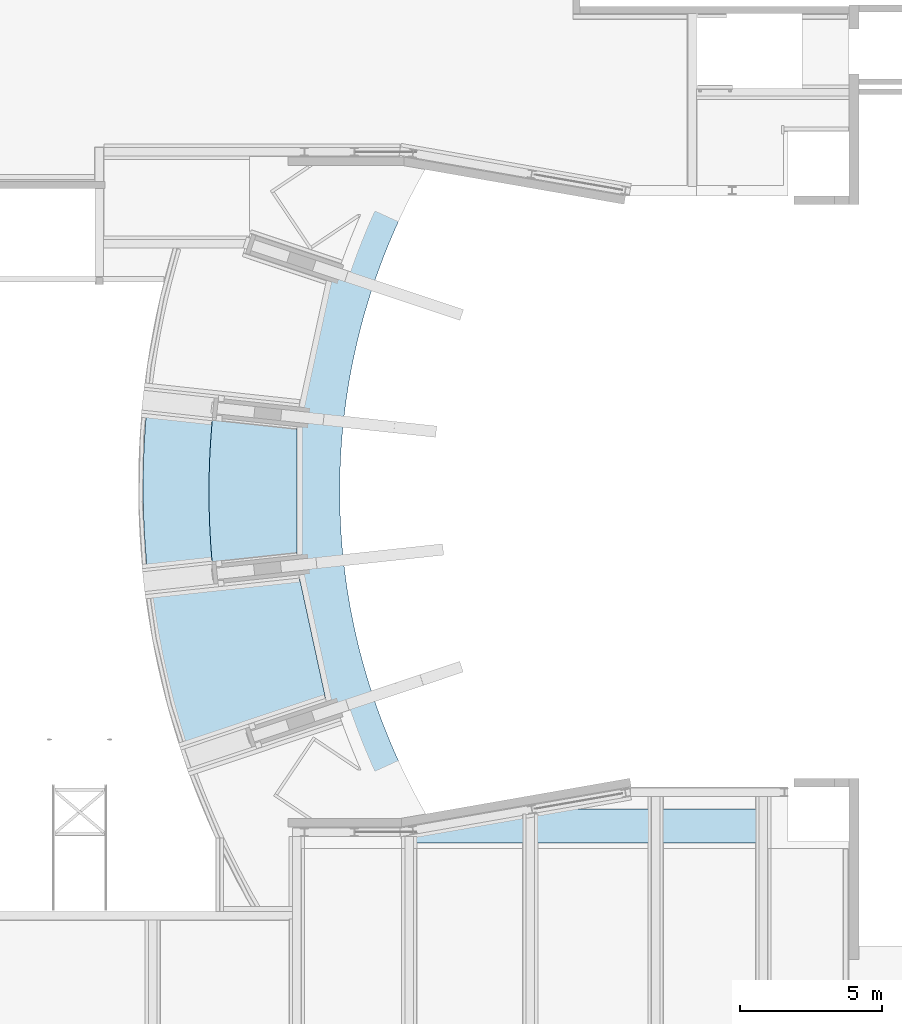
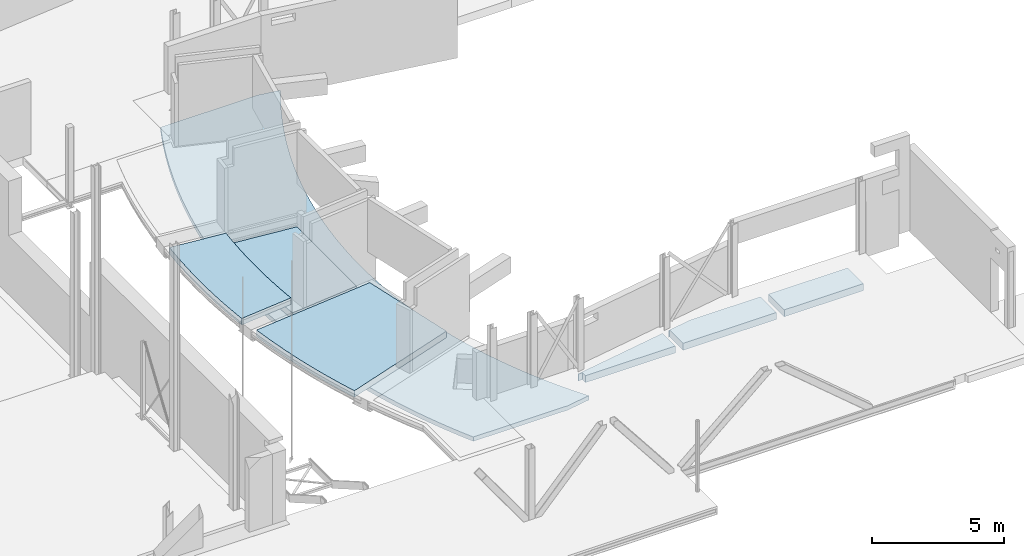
# One storey, part 24 of 37: 5 slabs, 21 openings.
"""IFC2X3 building model written with IfcOpenShell, lengths in millimetres."""

from ifc_helpers import new_model, entity, si_unit, converted_unit, derived_unit, direction, frame, frame_2d, origin, origin_2d_with_axis, place, context, subcontext, project, spatial, polyline, circle_curve, parameter, trimmed, segment, composite_curve, rectangle, outline, extrude, faceted_brep, material, layer, layer_set, layer_usage, type_object, element, save


model = new_model("IFC2X3")

# Units and contexts
model_context = context("Model", 3, precision=0.01, world=origin(), true_north=direction((6.12303176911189e-17, 1.0)))
body_context = subcontext(model_context, "Body", "Model", "MODEL_VIEW")
ifc_project = project(units=[si_unit("LENGTHUNIT", "METRE", prefix="MILLI"), si_unit("AREAUNIT", "SQUARE_METRE", prefix="MILLI"), si_unit("VOLUMEUNIT", "CUBIC_METRE"), converted_unit("PLANEANGLEUNIT", "DEGREE", entity("IfcRatioMeasure", 0.0174532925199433), si_unit("PLANEANGLEUNIT", "RADIAN"), dimensions=[0, 0, 0, 0, 0, 0, 0]), si_unit("MASSUNIT", "GRAM", prefix="KILO"), derived_unit("MASSDENSITYUNIT", [(si_unit("MASSUNIT", "GRAM", prefix="KILO"), 1), (si_unit("LENGTHUNIT", "METRE"), -3)]), derived_unit("MOMENTOFINERTIAUNIT", [(si_unit("LENGTHUNIT", "METRE"), 4)]), si_unit("TIMEUNIT", "SECOND"), si_unit("FREQUENCYUNIT", "HERTZ"), si_unit("THERMODYNAMICTEMPERATUREUNIT", "DEGREE_CELSIUS"), derived_unit("THERMALTRANSMITTANCEUNIT", [(si_unit("MASSUNIT", "GRAM", prefix="KILO"), 1), (si_unit("THERMODYNAMICTEMPERATUREUNIT", "KELVIN"), -1), (si_unit("TIMEUNIT", "SECOND"), -3)]), derived_unit("VOLUMETRICFLOWRATEUNIT", [(si_unit("LENGTHUNIT", "METRE"), 3), (si_unit("TIMEUNIT", "SECOND"), -1)]), si_unit("ELECTRICCURRENTUNIT", "AMPERE"), si_unit("ELECTRICVOLTAGEUNIT", "VOLT"), si_unit("POWERUNIT", "WATT"), si_unit("FORCEUNIT", "NEWTON", prefix="KILO"), si_unit("ILLUMINANCEUNIT", "LUX"), si_unit("LUMINOUSFLUXUNIT", "LUMEN"), si_unit("LUMINOUSINTENSITYUNIT", "CANDELA"), derived_unit("USERDEFINED", [(si_unit("MASSUNIT", "GRAM", prefix="KILO"), -1), (si_unit("LENGTHUNIT", "METRE"), -2), (si_unit("TIMEUNIT", "SECOND"), 3), (si_unit("LUMINOUSFLUXUNIT", "LUMEN"), 1)]), derived_unit("LINEARVELOCITYUNIT", [(si_unit("LENGTHUNIT", "METRE"), 1), (si_unit("TIMEUNIT", "SECOND"), -1)]), si_unit("PRESSUREUNIT", "PASCAL"), derived_unit("USERDEFINED", [(si_unit("LENGTHUNIT", "METRE"), -2), (si_unit("MASSUNIT", "GRAM", prefix="KILO"), 1), (si_unit("TIMEUNIT", "SECOND"), -2)]), derived_unit("LINEARFORCEUNIT", [(si_unit("MASSUNIT", "GRAM", prefix="KILO"), 1), (si_unit("LENGTHUNIT", "METRE"), 1), (si_unit("TIMEUNIT", "SECOND"), -2), (si_unit("LENGTHUNIT", "METRE"), -1)]), derived_unit("PLANARFORCEUNIT", [(si_unit("MASSUNIT", "GRAM", prefix="KILO"), 1), (si_unit("LENGTHUNIT", "METRE"), 1), (si_unit("TIMEUNIT", "SECOND"), -2), (si_unit("LENGTHUNIT", "METRE"), -2)])], contexts=[model_context])

# Site, building, storey
site_placement = place(None, origin())
site = spatial("IfcSite", under=ifc_project, at=site_placement, Name="Theater aan de Parade", CompositionType="ELEMENT")
building_placement = place(site_placement, origin())
building = spatial("IfcBuilding", under=site, at=building_placement, Name="Theater aan de Parade", CompositionType="ELEMENT")
storey_placement = place(building_placement, frame((0.0, 0.0, 5020.0)))
storey = spatial("IfcBuildingStorey", under=building, at=storey_placement, Name="01 eerste verdieping", CompositionType="ELEMENT", Elevation=5020.0)

# Slab
ifc_material_1 = material(Name="00_PBT_MAT_beton t.p.g.")
ifc_layer_1 = layer(ifc_material_1, 200.0)
ifc_layer_set_1 = layer_set([ifc_layer_1], Name="Floor:28_PBT_FL_beton t.p.g._d=200_bestaand")
ifc_layer_usage_1 = layer_usage(ifc_layer_set_1, "AXIS3", "POSITIVE", 0.0)
slab_type_1 = type_object("IfcSlabType", Name="Floor:28_PBT_FL_beton t.p.g._d=200_bestaand", PredefinedType="FLOOR", material=ifc_layer_set_1)
slab_1_placement = place(storey_placement, origin())
element("IfcSlab", 1, at=slab_1_placement, inside=storey, type_object=slab_type_1, material=ifc_layer_usage_1, Name="Floor:28_PBT_FL_beton t.p.g._d=200_bestaand", ObjectType="Floor:28_PBT_FL_beton t.p.g._d=200_bestaand", PredefinedType="FLOOR", context=body_context, shape_type="SweptSolid", body=[
    extrude(outline(composite_curve([segment(polyline([(-1033.59943588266, -11793.2034967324), (3095.4069332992, -11793.2034967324)]), True, "CONTINUOUS"), segment(trimmed(circle_curve(frame_2d((-21683.2616783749, 26.7965032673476), x_axis=(0.902568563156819, -0.430546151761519)), 27453.5028396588), [parameter(0.0)], [parameter(50.8657923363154)], True, "PARAMETER"), True, "CONTINUOUS"), segment(polyline([(3123.93925536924, 11786.7965032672), (-1119.31372159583, 11786.7965032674)]), True, "CONTINUOUS"), segment(polyline([(-1119.31372159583, 11786.7965032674), (-2021.15657160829, 11628.9740045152)]), True, "CONTINUOUS"), segment(trimmed(circle_curve(frame_2d((-21683.2616783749, 26.7965032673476), x_axis=(0.861239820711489, 0.508198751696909)), 22830.0), [parameter(298.793248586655)], [parameter(0.0)], True, "PARAMETER"), False, "CONTINUOUS"), segment(polyline([(-2045.27645958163, -11616.1600175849), (-1033.59943588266, -11793.2034967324)]), True, "CONTINUOUS")], self_intersect=False)), frame((50576.7383216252, 32423.2034967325, -1710.0), z_axis=(0.0, 0.0, -1.0), x_axis=(-1.0, 0.0, 0.0)), (0.0, 0.0, 1.0), 200.0),
])

# Slab, openings
ifc_material_2 = material(Name="00_PBT_MAT_systeemvloer")
ifc_layer_2 = layer(ifc_material_2, 320.0)
ifc_layer_set_2 = layer_set([ifc_layer_2], Name="Floor:28_PBT_FL_kanaalplaat_d=320")
ifc_layer_usage_2 = layer_usage(ifc_layer_set_2, "AXIS3", "POSITIVE", 0.0)
slab_type_2 = type_object("IfcSlabType", Name="Floor:28_PBT_FL_kanaalplaat_d=320", PredefinedType="FLOOR", material=ifc_layer_set_2)
slab_2_placement = place(storey_placement, frame((20003.857002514, 9357.0, -460.0)))
slab_2 = element("IfcSlab", 2, at=slab_2_placement, inside=storey, type_object=slab_type_2, material=ifc_layer_usage_2, Name="Floor:28_PBT_FL_kanaalplaat_d=320:2", ObjectType="Floor:28_PBT_FL_kanaalplaat_d=320", PredefinedType="FLOOR", context=body_context, shape_type="SweptSolid", body=[
    extrude(outline(polyline([(-8215.24860794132, 5176.8877713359), (-12659.7189110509, 5954.67007438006), (-20589.49552377, 5954.67007437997), (-20589.49552377, 4754.67007437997), (-8215.24860794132, 4754.67007438), (-8215.24860794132, 5176.8877713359)])), frame((23656.1995492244, 5954.67007438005, 320.0), z_axis=(0.0, 0.0, -1.0), x_axis=(-1.0, 0.0, 0.0)), (0.0, 0.0, 1.0), 320.0),
])
placement_1 = place(storey_placement, frame((20003.857002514, 9357.0, -460.0)))
opening_1_placement = place(placement_1, origin())
element("IfcOpeningElement", 3, at=opening_1_placement, cuts=slab_2, ObjectType="Opening", context=body_context, shape_type="SweptSolid", body=[
    extrude(rectangle(XDim=8014.30844689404, YDim=339.999999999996, at=origin_2d_with_axis()), frame((5406.14299748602, 3707.15422344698, -85.0), z_axis=(0.0, 0.0, 1.0), x_axis=(0.0, -1.0, 0.0)), (0.0, 0.0, 1.0), 405.0),
])
opening_2_placement = place(placement_1, origin())
element("IfcOpeningElement", 4, at=opening_2_placement, cuts=slab_2, ObjectType="Opening", context=body_context, shape_type="SweptSolid", body=[
    extrude(rectangle(XDim=8014.30844689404, YDim=339.999999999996, at=origin_2d_with_axis()), frame((11371.142997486, 3707.15422344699, -85.0), z_axis=(0.0, 0.0, 1.0), x_axis=(0.0, -1.0, 0.0)), (0.0, 0.0, 1.0), 405.0),
])
opening_3_placement = place(placement_1, origin())
element("IfcOpeningElement", 5, at=opening_3_placement, cuts=slab_2, ObjectType="Opening", context=body_context, shape_type="SweptSolid", body=[
    extrude(rectangle(XDim=8014.30844689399, YDim=339.999999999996, at=origin_2d_with_axis()), frame((17150.0011275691, 3707.15422344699, -85.0), z_axis=(0.0, 0.0, 1.0), x_axis=(0.0, -1.0, 0.0)), (0.0, 0.0, 1.0), 405.0),
])
opening_4_placement = place(placement_1, origin())
element("IfcOpeningElement", 6, at=opening_4_placement, cuts=slab_2, ObjectType="Opening", context=body_context, shape_type="SweptSolid", body=[
    extrude(rectangle(XDim=5665.00000000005, YDim=320.000000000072, at=origin_2d_with_axis()), frame((8388.642997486, -160.0, 0.0), z_axis=(0.0, 0.0, 1.0), x_axis=(-1.0, 0.0, 0.0)), (0.0, 0.0, 1.0), 320.0),
])
opening_5_placement = place(placement_1, origin())
element("IfcOpeningElement", 7, at=opening_5_placement, cuts=slab_2, ObjectType="Opening", context=body_context, shape_type="SweptSolid", body=[
    extrude(rectangle(XDim=320.000000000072, YDim=5306.14299748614, at=origin_2d_with_axis()), frame((2603.07149874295, -160.0, 0.0), z_axis=(0.0, 0.0, 1.0), x_axis=(0.0, -1.0, 0.0)), (0.0, 0.0, 1.0), 320.0),
])
opening_6_placement = place(placement_1, origin())
element("IfcOpeningElement", 8, at=opening_6_placement, cuts=slab_2, ObjectType="Opening", context=body_context, shape_type="SweptSolid", body=[
    extrude(rectangle(XDim=320.000000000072, YDim=5478.85813008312, at=origin_2d_with_axis()), frame((14260.5720625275, -160.0, 0.0), z_axis=(0.0, 0.0, 1.0), x_axis=(0.0, -1.0, 0.0)), (0.0, 0.0, 1.0), 320.0),
])
opening_7_placement = place(placement_1, origin())
element("IfcOpeningElement", 9, at=opening_7_placement, cuts=slab_2, ObjectType="Opening", context=body_context, shape_type="SweptSolid", body=[
    extrude(rectangle(XDim=320.000000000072, YDim=14711.4470295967, at=origin_2d_with_axis()), frame((24655.7246423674, 840.0, 0.0), z_axis=(0.0, 0.0, 1.0), x_axis=(0.0, -1.0, 0.0)), (0.0, 0.0, 1.0), 320.0),
])
opening_8_placement = place(placement_1, origin())
element("IfcOpeningElement", 10, at=opening_8_placement, cuts=slab_2, ObjectType="Opening", context=body_context, shape_type="SweptSolid", body=[
    extrude(rectangle(XDim=339.999999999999, YDim=10317.5533907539, at=origin_2d_with_axis()), frame((22608.7778229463, 8143.24437555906, -5.0), z_axis=(0.0, 0.0, 1.0), x_axis=(0.0, -1.0, 0.0)), (0.0, 0.0, 1.0), 324.999999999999),
])
opening_9_placement = place(placement_1, origin())
element("IfcOpeningElement", 11, at=opening_9_placement, cuts=slab_2, ObjectType="Opening", context=body_context, shape_type="SweptSolid", body=[
    extrude(rectangle(XDim=21300.0, YDim=339.999999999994, at=origin_2d_with_axis()), frame((33340.6950729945, 3598.0, -80.0), z_axis=(0.0, 0.0, 1.0), x_axis=(-1.0, 0.0, 0.0)), (0.0, 0.0, 1.0), 560.0),
])
opening_10_placement = place(placement_1, origin())
element("IfcOpeningElement", 12, at=opening_10_placement, cuts=slab_2, ObjectType="Opening", context=body_context, shape_type="SweptSolid", body=[
    extrude(rectangle(XDim=339.999999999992, YDim=3773.05748386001, at=origin_2d_with_axis()), frame((29654.0832602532, 11088.0, 0.0), z_axis=(0.0, 0.0, 1.0), x_axis=(0.0, 1.0, 0.0)), (0.0, 0.0, 1.0), 320.0),
])
opening_11_placement = place(placement_1, origin())
element("IfcOpeningElement", 13, at=opening_11_placement, cuts=slab_2, ObjectType="Opening", context=body_context, shape_type="SweptSolid", body=[
    extrude(rectangle(XDim=8227.18093451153, YDim=340.000000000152, at=origin_2d_with_axis()), frame((35600.5291465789, 11784.1470188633, -5.0), z_axis=(0.0, 0.0, 1.0), x_axis=(-0.985030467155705, -0.172380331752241, 0.0)), (0.0, 0.0, 1.0), 325.0),
])
opening_12_placement = place(placement_1, origin())
element("IfcOpeningElement", 14, at=opening_12_placement, cuts=slab_2, ObjectType="Opening", context=body_context, shape_type="SweptSolid", body=[
    extrude(rectangle(XDim=339.999999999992, YDim=5553.16081909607, at=origin_2d_with_axis()), frame((42431.6146634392, 12498.0, 0.0), z_axis=(0.0, 0.0, 1.0), x_axis=(0.0, 1.0, 0.0)), (0.0, 0.0, 1.0), 330.0),
])
opening_13_placement = place(placement_1, origin())
element("IfcOpeningElement", 15, at=opening_13_placement, cuts=slab_2, ObjectType="Opening", context=body_context, shape_type="SweptSolid", body=[
    extrude(rectangle(XDim=340.000000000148, YDim=2467.99999999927, at=origin_2d_with_axis()), frame((31871.4481571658, 2214.0, -5.0), z_axis=(0.0, 0.0, 1.0), x_axis=(-1.0, 0.0, 0.0)), (0.0, 0.0, 1.0), 404.999999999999),
])
opening_14_placement = place(placement_1, frame((22570.6950729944, 980.0, -85.0)))
element("IfcOpeningElement", 16, at=opening_14_placement, cuts=slab_2, ObjectType="Opening", context=body_context, shape_type="Brep", body=[
    faceted_brep([(0.0, 0.0, 2.0), (0.0, 0.0, 1.0), (100.0, 0.0, 1.0), (440.0, 0.0, 1.0), (100.0, 0.0, 0.0), (440.0, 0.0, 0.0), (540.0, 0.0, 2.0), (540.0, 0.0, 1.0), (440.0, 0.0, 2.0), (440.0, 0.0, 405.0), (100.0, 0.0, 405.0), (100.0, 0.0, 2.0), (100.0, 7013.24437555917, 1.0), (0.0, 7013.24437555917, 1.0), (0.0, 7013.24437555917, 2.0), (100.0, 7013.24437555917, 0.0), (440.0, 7013.24437555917, 1.0), (440.0, 7013.24437555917, 0.0), (540.0, 7013.24437555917, 1.0), (540.0, 7013.24437555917, 2.0), (440.0, 7013.24437555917, 2.0), (100.0, 7013.24437555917, 2.0), (100.0, 7013.24437555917, 405.0), (440.0, 7013.24437555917, 405.0), (440.0, 500.0, 1.0), (440.0, 500.0, 2.0), (440.0, 6863.24437555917, 1.0), (440.0, 6863.24437555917, 2.0), (100.0, 400.0, 2.0), (100.0, 400.0, 1.0), (100.0, 6913.24437555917, 1.0), (100.0, 6913.24437555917, 2.0), (540.0, 6863.24437555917, 2.0), (540.0, 6863.24437555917, 1.0), (0.0, 6913.24437555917, 2.0), (0.0, 6913.24437555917, 1.0), (540.0, 500.0, 2.0), (540.0, 500.0, 1.0), (0.0, 400.0, 2.0), (0.0, 400.0, 1.0)], [[[0, 1, 2]], [[3, 2, 4]], [[4, 5, 3]], [[6, 3, 7]], [[3, 8, 2]], [[9, 10, 11]], [[2, 8, 11]], [[8, 3, 6]], [[11, 8, 9]], [[11, 0, 2]], [[12, 13, 14]], [[15, 12, 16]], [[16, 17, 15]], [[18, 16, 19]], [[12, 20, 16]], [[21, 22, 23]], [[21, 20, 12]], [[19, 16, 20]], [[23, 20, 21]], [[12, 14, 21]], [[5, 24, 3]], [[24, 5, 17]], [[9, 8, 25]], [[9, 25, 23]], [[24, 26, 25]], [[26, 17, 16]], [[17, 26, 24]], [[27, 20, 23]], [[27, 23, 25]], [[26, 27, 25]], [[10, 9, 23]], [[23, 22, 10]], [[10, 28, 11]], [[28, 10, 22]], [[4, 2, 29]], [[4, 29, 15]], [[28, 30, 29]], [[31, 22, 21]], [[22, 31, 28]], [[30, 12, 15]], [[30, 15, 29]], [[31, 30, 28]], [[5, 4, 15]], [[15, 17, 5]], [[20, 27, 32]], [[32, 19, 20]], [[18, 33, 26]], [[26, 16, 18]], [[32, 27, 26]], [[26, 33, 32]], [[19, 32, 33]], [[33, 18, 19]], [[34, 31, 21]], [[21, 14, 34]], [[13, 12, 35]], [[30, 35, 12]], [[34, 14, 13]], [[13, 35, 34]], [[31, 34, 35]], [[35, 30, 31]], [[25, 8, 36]], [[6, 36, 8]], [[37, 7, 24]], [[3, 24, 7]], [[36, 6, 7]], [[7, 37, 36]], [[25, 36, 37]], [[37, 24, 25]], [[38, 0, 28]], [[11, 28, 0]], [[29, 2, 1]], [[1, 39, 29]], [[38, 28, 29]], [[29, 39, 38]], [[0, 38, 39]], [[39, 1, 0]]]),
])
opening_15_placement = place(placement_1, frame((27647.5545183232, 3748.0, -85.0)))
element("IfcOpeningElement", 17, at=opening_15_placement, cuts=slab_2, ObjectType="Opening", context=body_context, shape_type="Brep", body=[
    faceted_brep([(0.0, 0.0, 2.0), (0.0, 0.0, 1.0), (100.0, 0.0, 1.0), (440.0, 0.0, 1.0), (100.0, 0.0, 0.0), (440.0, 0.0, 0.0), (540.0, 0.0, 2.0), (540.0, 0.0, 1.0), (440.0, 0.0, 2.0), (440.0, 0.0, 405.0), (100.0, 0.0, 405.0), (100.0, 0.0, 2.0), (100.0, 7190.0, 1.0), (0.0, 7190.0, 1.0), (0.0, 7190.0, 2.0), (100.0, 7190.0, 0.0), (440.0, 7190.0, 1.0), (440.0, 7190.0, 0.0), (540.0, 7190.0, 1.0), (540.0, 7190.0, 2.0), (440.0, 7190.0, 2.0), (100.0, 7190.0, 2.0), (100.0, 7190.0, 405.0), (440.0, 7190.0, 405.0), (440.0, 500.0, 1.0), (440.0, 500.0, 2.0), (440.0, 7040.0, 1.0), (440.0, 7040.0, 2.0), (100.0, 400.0, 2.0), (100.0, 400.0, 1.0), (100.0, 7090.0, 1.0), (100.0, 7090.0, 2.0), (540.0, 7040.0, 2.0), (540.0, 7040.0, 1.0), (0.0, 7090.0, 2.0), (0.0, 7090.0, 1.0), (540.0, 500.0, 2.0), (540.0, 500.0, 1.0), (0.0, 400.0, 2.0), (0.0, 400.0, 1.0)], [[[0, 1, 2]], [[3, 2, 4]], [[4, 5, 3]], [[6, 3, 7]], [[3, 8, 2]], [[9, 10, 11]], [[2, 8, 11]], [[8, 3, 6]], [[11, 8, 9]], [[11, 0, 2]], [[12, 13, 14]], [[15, 12, 16]], [[16, 17, 15]], [[18, 16, 19]], [[12, 20, 16]], [[21, 22, 23]], [[21, 20, 12]], [[19, 16, 20]], [[23, 20, 21]], [[12, 14, 21]], [[5, 24, 3]], [[24, 5, 17]], [[9, 8, 25]], [[9, 25, 23]], [[24, 26, 25]], [[26, 17, 16]], [[17, 26, 24]], [[27, 20, 23]], [[27, 23, 25]], [[26, 27, 25]], [[10, 9, 23]], [[23, 22, 10]], [[10, 28, 11]], [[28, 10, 22]], [[4, 2, 29]], [[4, 29, 15]], [[28, 30, 29]], [[31, 22, 21]], [[22, 31, 28]], [[30, 12, 15]], [[30, 15, 29]], [[31, 30, 28]], [[5, 4, 15]], [[15, 17, 5]], [[20, 27, 32]], [[32, 19, 20]], [[18, 33, 16]], [[26, 16, 33]], [[32, 27, 26]], [[26, 33, 32]], [[19, 32, 33]], [[33, 18, 19]], [[34, 31, 21]], [[21, 14, 34]], [[13, 12, 30]], [[30, 35, 13]], [[34, 14, 13]], [[13, 35, 34]], [[31, 34, 35]], [[35, 30, 31]], [[25, 8, 36]], [[6, 36, 8]], [[37, 7, 24]], [[3, 24, 7]], [[36, 6, 7]], [[7, 37, 36]], [[25, 36, 37]], [[37, 24, 25]], [[38, 0, 11]], [[11, 28, 38]], [[29, 2, 1]], [[1, 39, 29]], [[38, 28, 29]], [[29, 39, 38]], [[0, 38, 39]], [[39, 1, 0]]]),
])
opening_16_placement = place(placement_1, frame((35865.6950729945, 3768.0, -85.0)))
element("IfcOpeningElement", 18, at=opening_16_placement, cuts=slab_2, ObjectType="Opening", context=body_context, shape_type="Brep", body=[
    faceted_brep([(100.0, 0.0, 405.0), (440.0, 0.0, 405.0), (440.0, 7957.52150220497, 405.0), (100.0, 7957.52150220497, 405.0), (0.0, 0.0, 2.0), (0.0, 0.0, 1.0), (100.0, 0.0, 1.0), (440.0, 0.0, 1.0), (100.0, 0.0, 0.0), (440.0, 0.0, 0.0), (540.0, 0.0, 2.0), (540.0, 0.0, 1.0), (440.0, 0.0, 2.0), (100.0, 0.0, 2.0), (100.0, 7957.52150220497, 1.0), (0.0, 7957.52150220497, 1.0), (0.0, 7957.52150220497, 2.0), (100.0, 7957.52150220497, 0.0), (440.0, 7957.52150220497, 1.0), (440.0, 7957.52150220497, 0.0), (540.0, 7957.52150220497, 1.0), (540.0, 7957.52150220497, 2.0), (440.0, 7957.52150220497, 2.0), (100.0, 7957.52150220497, 2.0), (440.0, 500.0, 1.0), (440.0, 500.0, 2.0), (440.0, 7807.52150220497, 1.0), (440.0, 7807.52150220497, 2.0), (100.0, 400.0, 2.0), (100.0, 400.0, 1.0), (100.0, 7857.52150220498, 1.0), (100.0, 7857.52150220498, 2.0), (540.0, 7807.52150220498, 2.0), (540.0, 7807.52150220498, 1.0), (0.0, 7857.52150220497, 2.0), (0.0, 7857.52150220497, 1.0), (540.0, 500.0, 2.0), (540.0, 500.0, 1.0), (0.0, 400.0, 2.0), (0.0, 400.0, 1.0)], [[[0, 1, 2]], [[2, 3, 0]], [[4, 5, 6]], [[7, 6, 8]], [[8, 9, 7]], [[10, 7, 11]], [[7, 12, 6]], [[1, 0, 13]], [[6, 12, 13]], [[12, 7, 10]], [[13, 12, 1]], [[13, 4, 6]], [[14, 15, 16]], [[17, 14, 18]], [[18, 19, 17]], [[20, 18, 21]], [[14, 22, 18]], [[23, 3, 2]], [[23, 22, 14]], [[21, 18, 22]], [[2, 22, 23]], [[14, 16, 23]], [[9, 24, 7]], [[24, 9, 19]], [[1, 12, 25]], [[1, 25, 2]], [[24, 26, 25]], [[26, 19, 18]], [[19, 26, 24]], [[27, 22, 2]], [[27, 2, 25]], [[26, 27, 25]], [[0, 28, 13]], [[28, 0, 3]], [[8, 6, 29]], [[8, 29, 17]], [[28, 30, 29]], [[31, 3, 23]], [[3, 31, 28]], [[30, 14, 17]], [[30, 17, 29]], [[31, 30, 28]], [[9, 8, 17]], [[17, 19, 9]], [[22, 27, 32]], [[32, 21, 22]], [[20, 33, 18]], [[26, 18, 33]], [[32, 27, 26]], [[26, 33, 32]], [[21, 32, 33]], [[33, 20, 21]], [[34, 31, 23]], [[23, 16, 34]], [[15, 14, 30]], [[30, 35, 15]], [[34, 16, 15]], [[15, 35, 34]], [[31, 34, 35]], [[35, 30, 31]], [[25, 12, 10]], [[10, 36, 25]], [[37, 11, 7]], [[7, 24, 37]], [[36, 10, 11]], [[11, 37, 36]], [[25, 36, 37]], [[37, 24, 25]], [[38, 4, 13]], [[13, 28, 38]], [[29, 6, 5]], [[5, 39, 29]], [[38, 28, 29]], [[29, 39, 38]], [[4, 38, 39]], [[39, 5, 4]]]),
])
opening_17_placement = place(placement_1, frame((44070.6950729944, 3748.0, -85.0)))
element("IfcOpeningElement", 19, at=opening_17_placement, cuts=slab_2, ObjectType="Opening", context=body_context, shape_type="Brep", body=[
    faceted_brep([(100.0, 0.0, 405.0), (440.0, 0.0, 405.0), (100.0, 8600.0, 405.0), (440.0, 8600.0, 405.0), (0.0, 0.0, 2.0), (0.0, 0.0, 1.0), (100.0, 0.0, 1.0), (440.0, 0.0, 1.0), (100.0, 0.0, 0.0), (440.0, 0.0, 0.0), (540.0, 0.0, 2.0), (540.0, 0.0, 1.0), (440.0, 0.0, 2.0), (100.0, 0.0, 2.0), (100.0, 8600.0, 1.0), (0.0, 8600.0, 1.0), (0.0, 8600.0, 2.0), (100.0, 8600.0, 0.0), (440.0, 8600.0, 1.0), (440.0, 8600.0, 0.0), (540.0, 8600.0, 1.0), (540.0, 8600.0, 2.0), (440.0, 8600.0, 2.0), (100.0, 8600.0, 2.0), (440.0, 500.0, 1.0), (440.0, 500.0, 2.0), (440.0, 8450.0, 1.0), (440.0, 8450.0, 2.0), (100.0, 400.0, 2.0), (100.0, 400.0, 1.0), (100.0, 8500.0, 1.0), (100.0, 8500.0, 2.0), (540.0, 8450.0, 2.0), (540.0, 8450.0, 1.0), (0.0, 8500.0, 2.0), (0.0, 8500.0, 1.0), (540.0, 500.0, 2.0), (540.0, 500.0, 1.0), (0.0, 400.0, 2.0), (0.0, 400.0, 1.0)], [[[0, 1, 2]], [[3, 2, 1]], [[4, 5, 6]], [[7, 6, 8]], [[8, 9, 7]], [[10, 7, 11]], [[7, 12, 6]], [[1, 0, 13]], [[6, 12, 13]], [[12, 7, 10]], [[13, 12, 1]], [[13, 4, 6]], [[14, 15, 16]], [[17, 14, 18]], [[18, 19, 17]], [[20, 18, 21]], [[14, 22, 18]], [[23, 2, 3]], [[23, 22, 14]], [[21, 18, 22]], [[3, 22, 23]], [[14, 16, 23]], [[9, 24, 7]], [[24, 9, 19]], [[1, 12, 25]], [[1, 25, 3]], [[24, 26, 25]], [[26, 19, 18]], [[19, 26, 24]], [[27, 22, 3]], [[27, 3, 25]], [[26, 27, 25]], [[0, 28, 13]], [[28, 0, 2]], [[8, 6, 29]], [[8, 29, 17]], [[28, 30, 29]], [[31, 2, 23]], [[2, 31, 28]], [[30, 14, 17]], [[30, 17, 29]], [[31, 30, 28]], [[9, 8, 19]], [[17, 19, 8]], [[22, 27, 32]], [[32, 21, 22]], [[20, 33, 18]], [[26, 18, 33]], [[32, 27, 26]], [[26, 33, 32]], [[21, 32, 33]], [[33, 20, 21]], [[34, 31, 23]], [[23, 16, 34]], [[15, 14, 30]], [[30, 35, 15]], [[34, 16, 15]], [[15, 35, 34]], [[31, 34, 35]], [[35, 30, 31]], [[25, 12, 10]], [[10, 36, 25]], [[37, 11, 7]], [[7, 24, 37]], [[36, 10, 11]], [[11, 37, 36]], [[25, 36, 37]], [[37, 24, 25]], [[38, 4, 13]], [[13, 28, 38]], [[29, 6, 5]], [[5, 39, 29]], [[38, 28, 29]], [[29, 39, 38]], [[4, 38, 39]], [[39, 5, 4]]]),
])
opening_18_placement = place(placement_1, frame((31601.4481571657, 3748.0, -85.0)))
element("IfcOpeningElement", 20, at=opening_18_placement, cuts=slab_2, ObjectType="Opening", context=body_context, shape_type="Brep", body=[
    faceted_brep([(100.0, 0.0, 405.0), (440.0, 0.0, 405.0), (440.0, 7190.0, 405.0), (100.0, 7190.0, 405.0), (0.0, 0.0, 2.0), (0.0, 0.0, 1.0), (100.0, 0.0, 1.0), (440.0, 0.0, 1.0), (100.0, 0.0, 0.0), (440.0, 0.0, 0.0), (540.0, 0.0, 2.0), (540.0, 0.0, 1.0), (440.0, 0.0, 2.0), (100.0, 0.0, 2.0), (100.0, 7190.0, 1.0), (0.0, 7190.0, 1.0), (0.0, 7190.0, 2.0), (100.0, 7190.0, 0.0), (440.0, 7190.0, 1.0), (440.0, 7190.0, 0.0), (540.0, 7190.0, 1.0), (540.0, 7190.0, 2.0), (440.0, 7190.0, 2.0), (100.0, 7190.0, 2.0), (440.0, 500.0, 1.0), (440.0, 500.0, 2.0), (440.0, 7040.0, 1.0), (440.0, 7040.0, 2.0), (100.0, 400.0, 2.0), (100.0, 400.0, 1.0), (100.0, 7090.0, 1.0), (100.0, 7090.0, 2.0), (540.0, 7040.0, 2.0), (540.0, 7040.0, 1.0), (0.0, 7090.0, 2.0), (0.0, 7090.0, 1.0), (540.0, 500.0, 2.0), (540.0, 500.0, 1.0), (0.0, 400.0, 2.0), (0.0, 400.0, 1.0)], [[[0, 1, 2]], [[2, 3, 0]], [[4, 5, 6]], [[7, 6, 8]], [[8, 9, 7]], [[10, 7, 11]], [[7, 12, 6]], [[1, 0, 13]], [[6, 12, 13]], [[12, 7, 10]], [[13, 12, 1]], [[13, 4, 6]], [[14, 15, 16]], [[17, 14, 18]], [[18, 19, 17]], [[20, 18, 21]], [[14, 22, 18]], [[23, 3, 2]], [[23, 22, 14]], [[21, 18, 22]], [[2, 22, 23]], [[14, 16, 23]], [[9, 24, 7]], [[24, 9, 19]], [[1, 12, 25]], [[1, 25, 2]], [[24, 26, 25]], [[26, 19, 18]], [[19, 26, 24]], [[27, 22, 2]], [[27, 2, 25]], [[26, 27, 25]], [[0, 28, 13]], [[28, 0, 3]], [[8, 6, 29]], [[8, 29, 17]], [[28, 30, 29]], [[31, 3, 23]], [[3, 31, 28]], [[30, 14, 17]], [[30, 17, 29]], [[31, 30, 28]], [[9, 8, 17]], [[17, 19, 9]], [[22, 27, 32]], [[32, 21, 22]], [[20, 33, 18]], [[26, 18, 33]], [[32, 27, 26]], [[26, 33, 32]], [[21, 32, 33]], [[33, 20, 21]], [[34, 31, 23]], [[23, 16, 34]], [[15, 14, 30]], [[30, 35, 15]], [[34, 16, 15]], [[15, 35, 34]], [[31, 34, 35]], [[35, 30, 31]], [[25, 12, 10]], [[10, 36, 25]], [[37, 11, 7]], [[7, 24, 37]], [[36, 10, 11]], [[11, 37, 36]], [[25, 36, 37]], [[37, 24, 25]], [[38, 4, 13]], [[13, 28, 38]], [[29, 6, 5]], [[5, 39, 29]], [[38, 28, 29]], [[29, 39, 38]], [[4, 38, 39]], [[39, 5, 4]]]),
])
opening_19_placement = place(placement_1, frame((40276.6950729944, 3748.0, -85.0)))
element("IfcOpeningElement", 21, at=opening_19_placement, cuts=slab_2, ObjectType="Opening", context=body_context, shape_type="Brep", body=[
    faceted_brep([(100.0, 0.0, 405.0), (440.0, 0.0, 405.0), (100.0, 8600.0, 405.0), (440.0, 8600.0, 405.0), (0.0, 0.0, 2.0), (0.0, 0.0, 1.0), (100.0, 0.0, 1.0), (440.0, 0.0, 1.0), (100.0, 0.0, 0.0), (440.0, 0.0, 0.0), (540.0, 0.0, 2.0), (540.0, 0.0, 1.0), (440.0, 0.0, 2.0), (100.0, 0.0, 2.0), (100.0, 8600.0, 1.0), (0.0, 8600.0, 1.0), (0.0, 8600.0, 2.0), (100.0, 8600.0, 0.0), (440.0, 8600.0, 1.0), (440.0, 8600.0, 0.0), (540.0, 8600.0, 1.0), (540.0, 8600.0, 2.0), (440.0, 8600.0, 2.0), (100.0, 8600.0, 2.0), (440.0, 500.0, 1.0), (440.0, 500.0, 2.0), (440.0, 8450.0, 1.0), (440.0, 8450.0, 2.0), (100.0, 400.0, 2.0), (100.0, 400.0, 1.0), (100.0, 8500.0, 1.0), (100.0, 8500.0, 2.0), (540.0, 8450.0, 2.0), (540.0, 8450.0, 1.0), (0.0, 8500.0, 2.0), (0.0, 8500.0, 1.0), (540.0, 500.0, 2.0), (540.0, 500.0, 1.0), (0.0, 400.0, 2.0), (0.0, 400.0, 1.0)], [[[0, 1, 2]], [[3, 2, 1]], [[4, 5, 6]], [[7, 6, 8]], [[8, 9, 7]], [[10, 7, 11]], [[7, 12, 6]], [[1, 0, 13]], [[6, 12, 13]], [[12, 7, 10]], [[13, 12, 1]], [[13, 4, 6]], [[14, 15, 16]], [[17, 14, 18]], [[18, 19, 17]], [[20, 18, 21]], [[14, 22, 18]], [[23, 2, 3]], [[23, 22, 14]], [[21, 18, 22]], [[3, 22, 23]], [[14, 16, 23]], [[9, 24, 7]], [[24, 9, 19]], [[1, 12, 25]], [[1, 25, 3]], [[24, 26, 25]], [[26, 19, 18]], [[19, 26, 24]], [[27, 22, 3]], [[27, 3, 25]], [[26, 27, 25]], [[0, 28, 13]], [[28, 0, 2]], [[8, 6, 29]], [[8, 29, 17]], [[28, 30, 29]], [[31, 2, 23]], [[2, 31, 28]], [[30, 14, 17]], [[30, 17, 29]], [[31, 30, 28]], [[9, 8, 19]], [[17, 19, 8]], [[22, 27, 32]], [[32, 21, 22]], [[20, 33, 18]], [[26, 18, 33]], [[32, 27, 26]], [[26, 33, 32]], [[21, 32, 33]], [[33, 20, 21]], [[34, 31, 23]], [[23, 16, 34]], [[15, 14, 30]], [[30, 35, 15]], [[34, 16, 15]], [[15, 35, 34]], [[31, 34, 35]], [[35, 30, 31]], [[25, 12, 10]], [[10, 36, 25]], [[37, 11, 7]], [[7, 24, 37]], [[36, 10, 11]], [[11, 37, 36]], [[25, 36, 37]], [[37, 24, 25]], [[38, 4, 13]], [[13, 28, 38]], [[29, 6, 5]], [[5, 39, 29]], [[38, 28, 29]], [[29, 39, 38]], [[4, 38, 39]], [[39, 5, 4]]]),
])

# Slab, opening
ifc_material_3 = material(Name="00_PBT_MAT_beton t.p.g._C30/37")
ifc_layer_3 = layer(ifc_material_3, 300.0)
ifc_layer_set_3 = layer_set([ifc_layer_3], Name="Floor:28_PBT_FL_staalplaatbeton_d=300_C30/37")
ifc_layer_usage_3 = layer_usage(ifc_layer_set_3, "AXIS3", "POSITIVE", 0.0)
slab_type_3 = type_object("IfcSlabType", Name="Floor:28_PBT_FL_staalplaatbeton_d=300_C30/37", PredefinedType="FLOOR")
slab_3_placement = place(storey_placement, frame((42505.2918154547, 17701.3084468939, -380.0)))
slab_3 = element("IfcSlab", 22, at=slab_3_placement, inside=storey, type_object=slab_type_3, material=ifc_layer_usage_3, Name="Floor:28_PBT_FL_staalplaatbeton_d=300_C30/37:4", ObjectType="Floor:28_PBT_FL_staalplaatbeton_d=300_C30/37", PredefinedType="FLOOR", context=body_context, shape_type="SweptSolid", body=[
    extrude(outline(composite_curve([segment(polyline([(-1674.5338992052, -1582.66617781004), (-2588.10967805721, -5799.05777362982)]), True, "CONTINUOUS"), segment(polyline([(-2588.10967805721, -5799.05777362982), (2388.02819260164, -7464.05630045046)]), True, "CONTINUOUS"), segment(trimmed(circle_curve(frame_2d((-25480.0944842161, 1635.34252695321), x_axis=(-1.0, 0.0)), 29316.0590896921), [parameter(161.917290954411)], [parameter(172.584217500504)], True, "PARAMETER"), True, "CONTINUOUS"), segment(polyline([(3590.75474356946, -2148.44469297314), (-1674.5338992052, -1582.66617781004)]), True, "CONTINUOUS")], self_intersect=False)), frame((3835.52607658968, 13261.8457765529, 300.0), z_axis=(0.0, 0.0, -1.0), x_axis=(-1.0, 0.0, 0.0)), (0.0, 0.0, 1.0), 300.0),
])
placement_2 = place(storey_placement, frame((42505.2918154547, 17701.3084468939, -380.0)))
placement_3 = place(placement_2, origin())
element("IfcOpeningElement", 23, at=placement_3, cuts=slab_3, ObjectType="Opening", context=body_context, shape_type="SweptSolid", body=[
    extrude(rectangle(XDim=339.999999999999, YDim=10317.5533907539, at=origin_2d_with_axis()), frame((107.343010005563, -201.064071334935, -85.0), z_axis=(0.0, 0.0, 1.0), x_axis=(0.0, -1.0, 0.0)), (0.0, 0.0, 1.0), 324.999999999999),
])

slab_type_4 = type_object("IfcSlabType", Name="Floor:28_PBT_FL_staalplaatbeton_d=300_C30/37", PredefinedType="FLOOR", material=ifc_layer_set_3)
slab_4_placement = place(storey_placement, frame((42505.2918154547, 17701.3084468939, -380.0)))
slab_4 = element("IfcSlab", 24, at=slab_4_placement, inside=storey, type_object=slab_type_4, material=ifc_layer_usage_3, Name="Floor:28_PBT_FL_staalplaatbeton_d=300_C30/37:5", ObjectType="Floor:28_PBT_FL_staalplaatbeton_d=300_C30/37", PredefinedType="FLOOR", context=body_context, shape_type="SweptSolid", body=[
    extrude(outline(composite_curve([segment(trimmed(circle_curve(frame_2d((-25889.4071941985, 1457.30986497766), x_axis=(-1.0, 0.0)), 27404.931115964), [parameter(174.921725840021)], [parameter(185.228460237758)], True, "PARAMETER"), False, "CONTINUOUS"), segment(polyline([(1407.95138413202, -968.481576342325), (3697.12143793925, -1214.46300715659)]), True, "CONTINUOUS"), segment(trimmed(circle_curve(frame_2d((-25480.0944842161, 1635.34252695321), x_axis=(-1.0, 0.0)), 29316.0590896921), [parameter(174.421484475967)], [parameter(185.026913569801)], True, "PARAMETER"), True, "CONTINUOUS"), segment(polyline([(3723.20473724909, 4204.12339185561), (1401.49902734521, 3954.64586112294)]), True, "CONTINUOUS")], self_intersect=False)), frame((3835.52607658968, 13261.8457765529, 300.0), z_axis=(0.0, 0.0, -1.0), x_axis=(-1.0, 0.0, 0.0)), (0.0, 0.0, 1.0), 300.0),
])
element("IfcOpeningElement", 25, at=placement_3, cuts=slab_4, ObjectType="Opening", context=body_context, shape_type="SweptSolid", body=[
    extrude(rectangle(XDim=339.999999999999, YDim=10317.5533907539, at=origin_2d_with_axis()), frame((107.343010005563, -201.064071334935, -85.0), z_axis=(0.0, 0.0, 1.0), x_axis=(0.0, -1.0, 0.0)), (0.0, 0.0, 1.0), 324.999999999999),
])

# Slab
ifc_layer_usage_4 = layer_usage(ifc_layer_set_3, "AXIS3", "POSITIVE", 0.0)
slab_type_5 = type_object("IfcSlabType", Name="Floor:28_PBT_FL_staalplaatbeton_d=300_C30/37", PredefinedType="FLOOR", material=ifc_layer_set_3)
slab_5_placement = place(storey_placement, origin())
element("IfcSlab", 26, at=slab_5_placement, inside=storey, type_object=slab_type_5, material=ifc_layer_usage_4, Name="Floor:28_PBT_FL_staalplaatbeton_d=300_C30/37", ObjectType="Floor:28_PBT_FL_staalplaatbeton_d=300_C30/37", PredefinedType="FLOOR", context=body_context, shape_type="SweptSolid", body=[
    extrude(outline(composite_curve([segment(polyline([(-2261.92832406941, -1485.84619005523), (2261.5648506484, -1485.84619005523)]), True, "CONTINUOUS"), segment(polyline([(2261.5648506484, -1485.84619005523), (2581.24979273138, 1489.22877250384)]), True, "CONTINUOUS"), segment(trimmed(circle_curve(frame_2d((35.9372078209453, -25797.2446770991), x_axis=(0.0928779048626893, 0.995677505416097)), 27404.931115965), [parameter(0.0)], [parameter(10.8085615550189)], True, "PARAMETER"), True, "CONTINUOUS"), segment(polyline([(-2580.88631931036, 1482.46360760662), (-2261.92832406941, -1485.84619005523)]), True, "CONTINUOUS")], self_intersect=False)), frame((46432.9804091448, 32456.4012962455, -710.0), z_axis=(0.0, 0.0, -1.0), x_axis=(0.0, -1.0, 0.0)), (0.0, 0.0, 1.0), 300.0),
])

save(model, "model.ifc")
